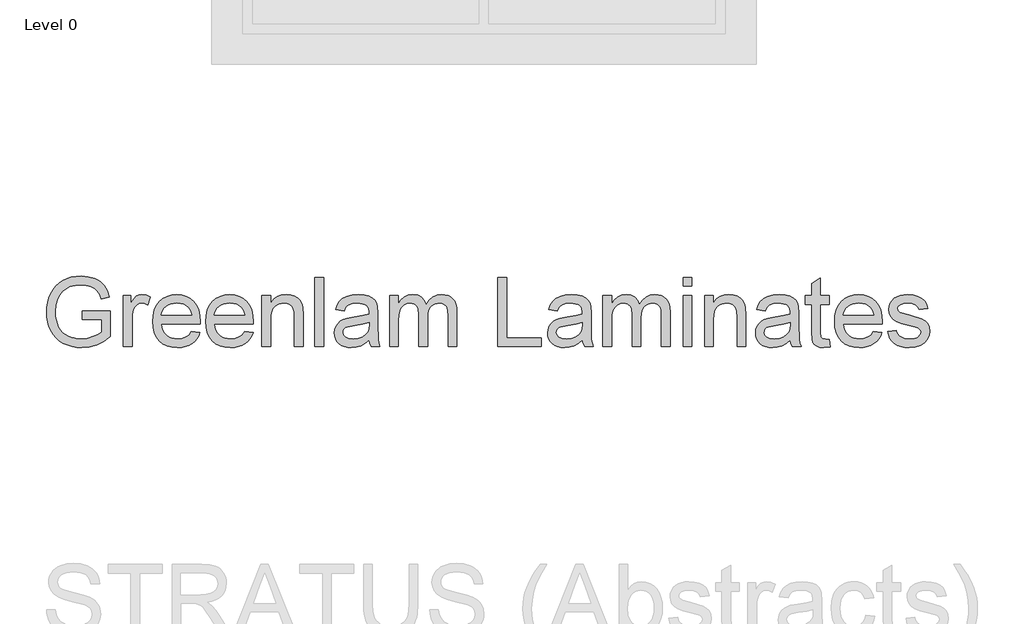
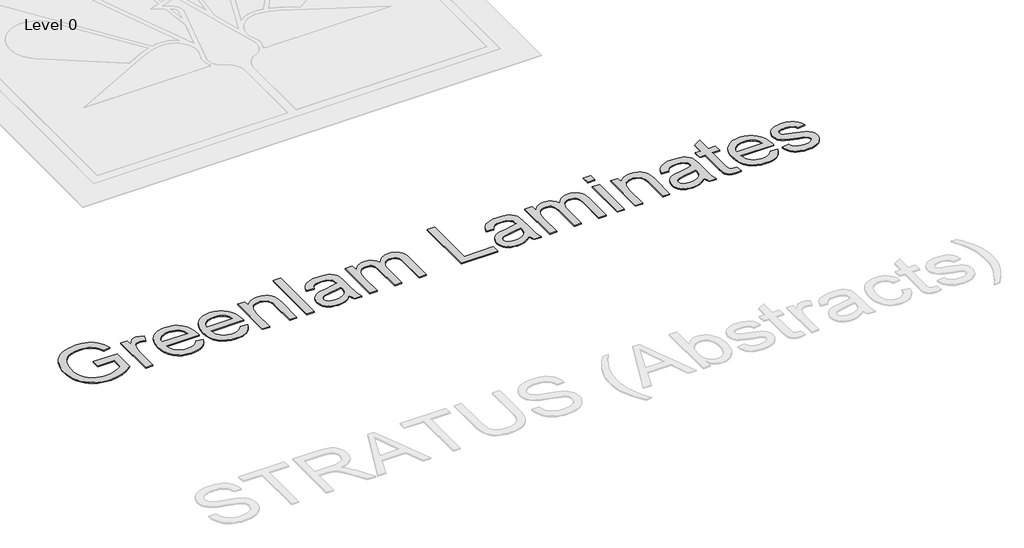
# One storey, part 9 of 9: 1 proxy.
"""IFC4 building model written with IfcOpenShell, lengths in millimetres."""

from ifc_helpers import new_model, si_unit, origin, origin_with_axes, place, context, project, spatial, polyline, outline, extrude, element, save

model = new_model("IFC4")

# Units and contexts
model_context = context("Model", 3, world=origin())
ifc_project = project(units=[si_unit("LENGTHUNIT", "METRE", prefix="MILLI")], contexts=[model_context])

# Site, building, storey
site = spatial("IfcSite", under=ifc_project)
building = spatial("IfcBuilding", under=site)
storey = spatial("IfcBuildingStorey", under=building, Name="Level 0", Elevation=0.0)

# Proxy
placement = place(None, origin())
element("IfcBuildingElementProxy", 1, Name="600mm Arial", ObjectType="600mm Arial", at=placement, inside=storey, context=model_context, shape_type="SweptSolid", body=[
    extrude(outline(polyline([(-10594.9298129, 2995.5724296), (-10594.9298129, 3070.9146622), (-10350.067557, 3070.9146622), (-10350.067557, 2845.6237284), (-10409.5724697, 2804.2370039), (-10470.9535806, 2774.5489269), (-10534.0637368, 2756.6698619), (-10598.7557857, 2750.7101736), (-10642.0325039, 2753.0784139), (-10683.2766741, 2760.183135), (-10722.4882962, 2772.0243367), (-10759.6673704, 2788.6020191), (-10793.6136815, 2809.6678618), (-10823.1270146, 2834.9735446), (-10848.2073696, 2864.5190673), (-10868.8547466, 2898.3044301), (-10884.9817735, 2935.2489794), (-10896.5010785, 2974.2720621), (-10903.4126615, 3015.373678), (-10905.7165225, 3058.5538272), (-10903.4218585, 3101.7385749), (-10896.5378667, 3143.4425975), (-10885.064547, 3183.6658952), (-10869.0018994, 3222.4084678), (-10848.6350324, 3257.9688612), (-10824.2490546, 3288.645621), (-10795.8439661, 3314.4387474), (-10763.4197667, 3335.3482403), (-10727.6800309, 3351.507457), (-10689.3283329, 3363.0497546), (-10648.3646727, 3369.9751331), (-10604.7890504, 3372.2835926), (-10542.7273578, 3366.9309096), (-10486.9196592, 3350.8728605), (-10462.0002525, 3339.1190308), (-10439.9227343, 3325.2682737), (-10420.6871045, 3309.3205892), (-10404.293363, 3291.2759773), (-10377.9346181, 3247.2588966), (-10358.749572, 3191.5799566), (-10428.2056927, 3172.0086345), (-10443.7119188, 3211.7214959), (-10462.5658711, 3241.6854844), (-10487.5082704, 3264.2734389), (-10521.2798375, 3281.8581982), (-10561.5445219, 3293.1705696), (-10605.9662728, 3296.94136), (-10657.9663928, 3292.876264), (-10702.4249319, 3280.6809758), (-10739.1763433, 3261.8822059), (-10768.0550799, 3238.0066644), (-10790.2199701, 3210.2867561), (-10806.8298422, 3179.9548856), (-10824.4881779, 3123.0803291), (-10830.3742899, 3061.6440359), (-10828.6038578, 3024.0235034), (-10823.2925615, 2989.5943472), (-10814.4404009, 2958.3565672), (-10802.0473762, 2930.3101636), (-10786.2744357, 2905.5609024), (-10767.2825277, 2884.2145496), (-10745.0716522, 2866.2711053), (-10719.6418093, 2851.7305695), (-10692.1840169, 2840.496373), (-10663.8892929, 2832.471947), (-10634.7576374, 2827.6572914), (-10604.7890504, 2826.0524062), (-10552.6049894, 2830.8900544), (-10501.7085154, 2845.4029992), (-10457.5074936, 2865.3973856), (-10425.4097896, 2886.679359), (-10425.4097896, 2995.5724296), (-10594.9298129, 2995.5724296)])), origin_with_axes(), (0.0, 0.0, 1.0), 10.0),
    extrude(outline(polyline([(-10237.054208, 2760.1279527), (-10237.054208, 3202.7635693), (-10171.1297545, 3202.7635693), (-10171.1297545, 3137.2805741), (-10146.7759664, 3175.245996), (-10124.3351647, 3197.6132213), (-10101.8207866, 3208.5393166), (-10077.2462693, 3212.1813483), (-10039.7223058, 3206.3688128), (-10001.6097311, 3188.9312062), (-10026.7728596, 3121.3880719), (-10053.2603632, 3132.9763548), (-10079.7478669, 3136.8391157), (-10102.2438509, 3133.1235076), (-10122.3486019, 3121.9766831), (-10138.590592, 3104.244771), (-10149.4982932, 3080.7738997), (-10158.6585549, 3038.6881994), (-10161.7119754, 2992.7765264), (-10161.7119754, 2760.1279527), (-10237.054208, 2760.1279527)])), origin_with_axes(), (0.0, 0.0, 1.0), 10.0),
    extrude(outline(polyline([(-9644.617043, 2891.9768597), (-9570.7463384, 2882.5590807), (-9582.0725053, 2852.9721712), (-9597.3626007, 2826.8985348), (-9616.6166246, 2804.3381714), (-9639.8345771, 2785.2910811), (-9666.7773347, 2770.1619341), (-9697.2057742, 2759.3554005), (-9731.1198956, 2752.8714803), (-9768.519699, 2750.7101736), (-9815.2683035, 2754.4395773), (-9856.9217424, 2765.6277885), (-9893.4800157, 2784.2748071), (-9924.9431233, 2810.3806332), (-9950.2442075, 2843.2186998), (-9968.3164106, 2882.06244), (-9979.1597324, 2926.9118537), (-9982.774173, 2977.766941), (-9979.1229442, 3030.3464752), (-9968.1692578, 3076.6904095), (-9949.9131138, 3116.798744), (-9924.3545121, 3150.6714788), (-9892.9741779, 3177.5820467), (-9857.2528362, 3196.8038809), (-9817.1904869, 3208.3369815), (-9772.7871301, 3212.1813483), (-9729.8139146, 3208.3461785), (-9690.9517803, 3196.8406691), (-9656.2007273, 3177.6648201), (-9625.5607557, 3150.8186315), (-9600.5493785, 3117.0194732), (-9582.6841091, 3076.9847151), (-9571.9649475, 3030.7143572), (-9568.3918936, 2978.2083994), (-9568.833352, 2957.9013133), (-9907.4319404, 2957.9013133), (-9903.0679402, 2927.8361572), (-9894.3905236, 2901.5050034), (-9881.3996907, 2878.9078519), (-9864.0954413, 2860.0447026), (-9843.4342688, 2845.1730729), (-9820.3726662, 2834.5504803), (-9794.9106336, 2828.1769247), (-9767.048171, 2826.0524062), (-9726.9490335, 2829.9887436), (-9693.1774664, 2841.7977556), (-9665.7334695, 2862.2152063), (-9644.617043, 2891.9768597)]), holes=[polyline([(-9907.4319404, 3033.2435459), (-9643.7341262, 3033.2435459), (-9653.9244575, 3073.0483778), (-9662.689246, 3088.7017567), (-9673.9004498, 3101.5224442), (-9694.4466593, 3116.973488), (-9717.82556, 3128.0099478), (-9744.0371522, 3134.6318238), (-9773.0814357, 3136.8391157), (-9799.5735379, 3135.0778807), (-9823.8675452, 3129.7941755), (-9845.9634575, 3120.9880003), (-9865.8612749, 3108.6593549), (-9882.558519, 3093.3784565), (-9895.0527112, 3075.7155222), (-9903.3438517, 3055.670552), (-9907.4319404, 3033.2435459)])]), origin_with_axes(), (0.0, 0.0, 1.0), 10.0),
    extrude(outline(polyline([(-9183.1458683, 2891.9768597), (-9109.2751636, 2882.5590807), (-9120.6013305, 2852.9721712), (-9135.891426, 2826.8985348), (-9155.1454499, 2804.3381714), (-9178.3634023, 2785.2910811), (-9205.3061599, 2770.1619341), (-9235.7345995, 2759.3554005), (-9269.6487209, 2752.8714803), (-9307.0485242, 2750.7101736), (-9353.7971288, 2754.4395773), (-9395.4505677, 2765.6277885), (-9432.0088409, 2784.2748071), (-9463.4719486, 2810.3806332), (-9488.7730328, 2843.2186998), (-9506.8452358, 2882.06244), (-9517.6885576, 2926.9118537), (-9521.3029982, 2977.766941), (-9517.6517694, 3030.3464752), (-9506.698083, 3076.6904095), (-9488.441939, 3116.798744), (-9462.8833374, 3150.6714788), (-9431.5030032, 3177.5820467), (-9395.7816615, 3196.8038809), (-9355.7193122, 3208.3369815), (-9311.3159554, 3212.1813483), (-9268.3427398, 3208.3461785), (-9229.4806055, 3196.8406691), (-9194.7295526, 3177.6648201), (-9164.0895809, 3150.8186315), (-9139.0782038, 3117.0194732), (-9121.2129344, 3076.9847151), (-9110.4937727, 3030.7143572), (-9106.9207189, 2978.2083994), (-9107.3621772, 2957.9013133), (-9445.9607656, 2957.9013133), (-9441.5967654, 2927.8361572), (-9432.9193489, 2901.5050034), (-9419.9285159, 2878.9078519), (-9402.6242666, 2860.0447026), (-9381.963094, 2845.1730729), (-9358.9014915, 2834.5504803), (-9333.4394589, 2828.1769247), (-9305.5769962, 2826.0524062), (-9265.4778588, 2829.9887436), (-9231.7062916, 2841.7977556), (-9204.2622948, 2862.2152063), (-9183.1458683, 2891.9768597)]), holes=[polyline([(-9445.9607656, 3033.2435459), (-9182.2629515, 3033.2435459), (-9192.4532827, 3073.0483778), (-9201.2180713, 3088.7017567), (-9212.4292751, 3101.5224442), (-9232.9754845, 3116.973488), (-9256.3543853, 3128.0099478), (-9282.5659775, 3134.6318238), (-9311.610261, 3136.8391157), (-9338.1023631, 3135.0778807), (-9362.3963704, 3129.7941755), (-9384.4922827, 3120.9880003), (-9404.3901002, 3108.6593549), (-9421.0873442, 3093.3784565), (-9433.5815365, 3075.7155222), (-9441.8726769, 3055.670552), (-9445.9607656, 3033.2435459)])]), origin_with_axes(), (0.0, 0.0, 1.0), 10.0),
    extrude(outline(polyline([(-9031.5784862, 2760.1279527), (-9031.5784862, 3202.7635693), (-8956.2362536, 3202.7635693), (-8956.2362536, 3140.9593941), (-8930.0614497, 3172.1189991), (-8898.6259332, 3194.3758598), (-8861.9297042, 3207.7299762), (-8819.9727626, 3212.1813483), (-8782.8350752, 3208.5944989), (-8748.8243847, 3197.8339505), (-8720.4606829, 3181.2424725), (-8700.2639614, 3160.1628342), (-8686.5603571, 3134.6502179), (-8677.6760069, 3104.7598058), (-8673.7028813, 3031.9191707), (-8673.7028813, 2760.1279527), (-8749.0451139, 2760.1279527), (-8749.0451139, 3021.7656276), (-8751.2156177, 3060.7243309), (-8757.727129, 3088.4258452), (-8769.7384762, 3108.2730788), (-8788.4084874, 3123.6689403), (-8812.3392112, 3133.5465719), (-8840.132696, 3136.8391157), (-8863.0103575, 3134.9905087), (-8884.2601413, 3129.4446876), (-8903.8820472, 3120.2016525), (-8921.8760753, 3107.2614033), (-8936.9086533, 3089.1524121), (-8947.646209, 3064.4031509), (-8954.0887425, 3033.0136196), (-8956.2362536, 2994.9838184), (-8956.2362536, 2760.1279527), (-9031.5784862, 2760.1279527)])), origin_with_axes(), (0.0, 0.0, 1.0), 10.0),
    extrude(outline(polyline([(-8570.1073115, 2760.1279527), (-8570.1073115, 3362.8658136), (-8494.7650789, 3362.8658136), (-8494.7650789, 2760.1279527), (-8570.1073115, 2760.1279527)])), origin_with_axes(), (0.0, 0.0, 1.0), 10.0),
    extrude(outline(polyline([(-8099.2183577, 2816.6346271), (-8135.2156109, 2785.7693277), (-8172.2797219, 2765.5726062), (-8211.2568193, 2754.4257817), (-8252.9930316, 2750.7101736), (-8286.5392711, 2752.9450567), (-8315.9560351, 2759.6497061), (-8341.2433238, 2770.8241217), (-8362.401137, 2786.4683035), (-8379.1075781, 2805.5889702), (-8391.0407503, 2827.1928404), (-8398.2006537, 2851.279914), (-8400.5872881, 2877.8501911), (-8396.9820446, 2909.0833725), (-8386.1663139, 2937.4470743), (-8369.4828654, 2961.727286), (-8348.2744684, 2980.709997), (-8323.3504632, 2995.0573948), (-8295.5201903, 3005.4316671), (-8230.3315007, 3016.7624325), (-8153.297011, 3028.6818092), (-8099.6598161, 3042.661325), (-8099.2183577, 3059.4367439), (-8104.4054938, 3093.0611583), (-8110.889414, 3105.5139638), (-8119.9669022, 3115.0605016), (-8135.6570693, 3124.5886453), (-8154.7685389, 3131.3944622), (-8203.2553859, 3136.8391157), (-8248.1369893, 3133.2154781), (-8279.4805353, 3122.3445651), (-8300.8544792, 3102.2398141), (-8315.8272764, 3070.9146622), (-8391.169509, 3080.3324413), (-8378.0913041, 3121.5352247), (-8358.5751643, 3153.9088403), (-8330.8000736, 3178.6672986), (-8292.9450163, 3197.0246101), (-8246.6470672, 3208.3921638), (-8193.5433012, 3212.1813483), (-8142.610039, 3208.8336222), (-8102.23499, 3198.7904437), (-8071.7927549, 3183.6888878), (-8050.6579343, 3165.1660294), (-8036.6416303, 3142.2653752), (-8027.554945, 3114.030432), (-8023.8761251, 3048.1059785), (-8023.8761251, 2954.3696461), (-8020.0501523, 2823.4772322), (-8014.3847696, 2791.1220108), (-8005.0405669, 2760.1279527), (-8080.3827995, 2760.1279527), (-8092.449329, 2786.3211507), (-8099.2183577, 2816.6346271)]), holes=[polyline([(-8099.2183577, 2967.3190924), (-8149.8389202, 2954.7743163), (-8220.7665689, 2944.2161031), (-8285.5873764, 2932.0024208), (-8302.4547659, 2923.6514995), (-8314.9443596, 2912.1367931), (-8322.6698815, 2898.3412183), (-8325.2450555, 2883.1476919), (-8319.6348551, 2860.7436784), (-8302.8042538, 2842.3863668), (-8275.1211337, 2830.1358964), (-8236.9533767, 2826.0524062), (-8196.4863572, 2830.5589606), (-8160.7282273, 2844.078624), (-8131.739126, 2863.999434), (-8111.5791927, 2887.7094286), (-8102.6396602, 2912.1367931), (-8099.6598161, 2945.9819366), (-8099.2183577, 2967.3190924)])]), origin_with_axes(), (0.0, 0.0, 1.0), 10.0),
    extrude(outline(polyline([(-7920.2805552, 2760.1279527), (-7920.2805552, 3202.7635693), (-7844.9383226, 3202.7635693), (-7844.9383226, 3129.9229342), (-7822.2767917, 3163.3818017), (-7793.1405377, 3189.5933938), (-7758.5228419, 3206.5343597), (-7719.4169858, 3212.1813483), (-7677.5152266, 3206.4239951), (-7659.6821469, 3199.2273036), (-7643.9276004, 3189.1519354), (-7618.8380484, 3161.5056035), (-7602.4305114, 3124.6254335), (-7574.9681204, 3162.9311462), (-7543.6429685, 3190.2923696), (-7508.4550557, 3206.7091037), (-7469.4043819, 3212.1813483), (-7439.2426568, 3209.9050785), (-7412.7689488, 3203.076269), (-7389.9832577, 3191.6949197), (-7370.8855836, 3175.7610308), (-7355.7886262, 3155.0906612), (-7345.0050853, 3129.4998699), (-7338.5349607, 3098.988657), (-7336.3782525, 3063.5570223), (-7336.3782525, 2760.1279527), (-7411.7204851, 2760.1279527), (-7411.7204851, 3031.1834067), (-7413.4679246, 3068.7625525), (-7418.710243, 3094.0912279), (-7428.5326923, 3111.436864), (-7444.0205243, 3125.0668919), (-7463.9413343, 3133.8960598), (-7487.0627177, 3136.8391157), (-7508.413669, 3134.9537205), (-7527.8792251, 3129.2975348), (-7545.4593859, 3119.8705587), (-7561.1541515, 3106.6727921), (-7574.062211, 3089.317959), (-7583.2822535, 3067.4197832), (-7588.814279, 3040.9782648), (-7590.6582875, 3009.9934038), (-7590.6582875, 2760.1279527), (-7666.0005201, 2760.1279527), (-7666.0005201, 3039.5711162), (-7670.3599218, 3082.1718512), (-7675.8091738, 3098.8920879), (-7683.4381267, 3112.5589041), (-7693.5502831, 3123.1814967), (-7706.4491455, 3130.7690628), (-7722.1347141, 3135.3216025), (-7740.6069888, 3136.8391157), (-7769.6328782, 3132.7924138), (-7796.3778992, 3120.6523079), (-7818.4508189, 3100.7131038), (-7833.4604044, 3073.269107), (-7842.068843, 3035.1933205), (-7844.9383226, 2983.3587473), (-7844.9383226, 2760.1279527), (-7920.2805552, 2760.1279527)])), origin_with_axes(), (0.0, 0.0, 1.0), 10.0),
    extrude(outline(polyline([(-6978.5026476, 2760.1279527), (-6978.5026476, 3362.8658136), (-6903.1604149, 3362.8658136), (-6903.1604149, 2835.4701853), (-6601.7914845, 2835.4701853), (-6601.7914845, 2760.1279527), (-6978.5026476, 2760.1279527)])), origin_with_axes(), (0.0, 0.0, 1.0), 10.0),
    extrude(outline(polyline([(-6243.9158796, 2816.6346271), (-6279.9131328, 2785.7693277), (-6316.9772438, 2765.5726062), (-6355.9543412, 2754.4257817), (-6397.6905536, 2750.7101736), (-6431.236793, 2752.9450567), (-6460.653557, 2759.6497061), (-6485.9408457, 2770.8241217), (-6507.0986589, 2786.4683035), (-6523.8051, 2805.5889702), (-6535.7382723, 2827.1928404), (-6542.8981756, 2851.279914), (-6545.28481, 2877.8501911), (-6541.6795665, 2909.0833725), (-6530.8638358, 2937.4470743), (-6514.1803873, 2961.727286), (-6492.9719903, 2980.709997), (-6468.0479852, 2995.0573948), (-6440.2177122, 3005.4316671), (-6375.0290227, 3016.7624325), (-6297.9945329, 3028.6818092), (-6244.357338, 3042.661325), (-6243.9158796, 3059.4367439), (-6249.1030157, 3093.0611583), (-6255.5869359, 3105.5139638), (-6264.6644241, 3115.0605016), (-6280.3545912, 3124.5886453), (-6299.4660609, 3131.3944622), (-6347.9529078, 3136.8391157), (-6392.8345112, 3133.2154781), (-6424.1780572, 3122.3445651), (-6445.5520011, 3102.2398141), (-6460.5247984, 3070.9146622), (-6535.867031, 3080.3324413), (-6522.788826, 3121.5352247), (-6503.2726862, 3153.9088403), (-6475.4975956, 3178.6672986), (-6437.6425383, 3197.0246101), (-6391.3445892, 3208.3921638), (-6338.2408232, 3212.1813483), (-6287.3075609, 3208.8336222), (-6246.932512, 3198.7904437), (-6216.4902768, 3183.6888878), (-6195.3554562, 3165.1660294), (-6181.3391522, 3142.2653752), (-6172.2524669, 3114.030432), (-6168.573647, 3048.1059785), (-6168.573647, 2954.3696461), (-6164.7476742, 2823.4772322), (-6159.0822915, 2791.1220108), (-6149.7380888, 2760.1279527), (-6225.0803214, 2760.1279527), (-6237.1468509, 2786.3211507), (-6243.9158796, 2816.6346271)]), holes=[polyline([(-6243.9158796, 2967.3190924), (-6294.5364421, 2954.7743163), (-6365.4640908, 2944.2161031), (-6430.2848983, 2932.0024208), (-6447.1522878, 2923.6514995), (-6459.6418816, 2912.1367931), (-6467.3674035, 2898.3412183), (-6469.9425774, 2883.1476919), (-6464.332377, 2860.7436784), (-6447.5017757, 2842.3863668), (-6419.8186556, 2830.1358964), (-6381.6508986, 2826.0524062), (-6341.1838791, 2830.5589606), (-6305.4257492, 2844.078624), (-6276.436648, 2863.999434), (-6256.2767146, 2887.7094286), (-6247.3371821, 2912.1367931), (-6244.357338, 2945.9819366), (-6243.9158796, 2967.3190924)])]), origin_with_axes(), (0.0, 0.0, 1.0), 10.0),
    extrude(outline(polyline([(-6064.9780771, 2760.1279527), (-6064.9780771, 3202.7635693), (-5989.6358445, 3202.7635693), (-5989.6358445, 3129.9229342), (-5966.9743136, 3163.3818017), (-5937.8380596, 3189.5933938), (-5903.2203639, 3206.5343597), (-5864.1145078, 3212.1813483), (-5822.2127485, 3206.4239951), (-5804.3796688, 3199.2273036), (-5788.6251224, 3189.1519354), (-5763.5355703, 3161.5056035), (-5747.1280333, 3124.6254335), (-5719.6656424, 3162.9311462), (-5688.3404905, 3190.2923696), (-5653.1525776, 3206.7091037), (-5614.1019038, 3212.1813483), (-5583.9401788, 3209.9050785), (-5557.4664707, 3203.076269), (-5534.6807796, 3191.6949197), (-5515.5831055, 3175.7610308), (-5500.4861482, 3155.0906612), (-5489.7026072, 3129.4998699), (-5483.2324826, 3098.988657), (-5481.0757744, 3063.5570223), (-5481.0757744, 2760.1279527), (-5556.418007, 2760.1279527), (-5556.418007, 3031.1834067), (-5558.1654465, 3068.7625525), (-5563.4077649, 3094.0912279), (-5573.2302142, 3111.436864), (-5588.7180462, 3125.0668919), (-5608.6388562, 3133.8960598), (-5631.7602396, 3136.8391157), (-5653.1111909, 3134.9537205), (-5672.576747, 3129.2975348), (-5690.1569078, 3119.8705587), (-5705.8516734, 3106.6727921), (-5718.759733, 3089.317959), (-5727.9797755, 3067.4197832), (-5733.511801, 3040.9782648), (-5735.3558095, 3009.9934038), (-5735.3558095, 2760.1279527), (-5810.6980421, 2760.1279527), (-5810.6980421, 3039.5711162), (-5815.0574437, 3082.1718512), (-5820.5066958, 3098.8920879), (-5828.1356486, 3112.5589041), (-5838.247805, 3123.1814967), (-5851.1466674, 3130.7690628), (-5866.832236, 3135.3216025), (-5885.3045107, 3136.8391157), (-5914.3304001, 3132.7924138), (-5941.0754212, 3120.6523079), (-5963.1483409, 3100.7131038), (-5978.1579263, 3073.269107), (-5986.766365, 3035.1933205), (-5989.6358445, 2983.3587473), (-5989.6358445, 2760.1279527), (-6064.9780771, 2760.1279527)])), origin_with_axes(), (0.0, 0.0, 1.0), 10.0),
    extrude(outline(polyline([(-5368.0624255, 3287.523581), (-5368.0624255, 3362.8658136), (-5292.7201929, 3362.8658136), (-5292.7201929, 3287.523581), (-5368.0624255, 3287.523581)])), origin_with_axes(), (0.0, 0.0, 1.0), 10.0),
    extrude(outline(polyline([(-5368.0624255, 2760.1279527), (-5368.0624255, 3202.7635693), (-5292.7201929, 3202.7635693), (-5292.7201929, 2760.1279527), (-5368.0624255, 2760.1279527)])), origin_with_axes(), (0.0, 0.0, 1.0), 10.0),
    extrude(outline(polyline([(-5179.7068439, 2760.1279527), (-5179.7068439, 3202.7635693), (-5104.3646113, 3202.7635693), (-5104.3646113, 3140.9593941), (-5078.1898074, 3172.1189991), (-5046.7542909, 3194.3758598), (-5010.0580619, 3207.7299762), (-4968.1011203, 3212.1813483), (-4930.9634329, 3208.5944989), (-4896.9527424, 3197.8339505), (-4868.5890406, 3181.2424725), (-4848.3923191, 3160.1628342), (-4834.6887148, 3134.6502179), (-4825.8043646, 3104.7598058), (-4821.831239, 3031.9191707), (-4821.831239, 2760.1279527), (-4897.1734716, 2760.1279527), (-4897.1734716, 3021.7656276), (-4899.3439754, 3060.7243309), (-4905.8554867, 3088.4258452), (-4917.8668339, 3108.2730788), (-4936.5368451, 3123.6689403), (-4960.4675689, 3133.5465719), (-4988.2610537, 3136.8391157), (-5011.1387152, 3134.9905087), (-5032.388499, 3129.4446876), (-5052.0104049, 3120.2016525), (-5070.004433, 3107.2614033), (-5085.037011, 3089.1524121), (-5095.7745667, 3064.4031509), (-5102.2171002, 3033.0136196), (-5104.3646113, 2994.9838184), (-5104.3646113, 2760.1279527), (-5179.7068439, 2760.1279527)])), origin_with_axes(), (0.0, 0.0, 1.0), 10.0),
    extrude(outline(polyline([(-4435.7022969, 2816.6346271), (-4471.6995501, 2785.7693277), (-4508.7636611, 2765.5726062), (-4547.7407585, 2754.4257817), (-4589.4769709, 2750.7101736), (-4623.0232103, 2752.9450567), (-4652.4399744, 2759.6497061), (-4677.727263, 2770.8241217), (-4698.8850762, 2786.4683035), (-4715.5915174, 2805.5889702), (-4727.5246896, 2827.1928404), (-4734.6845929, 2851.279914), (-4737.0712273, 2877.8501911), (-4733.4659838, 2909.0833725), (-4722.6502531, 2937.4470743), (-4705.9668047, 2961.727286), (-4684.7584076, 2980.709997), (-4659.8344025, 2995.0573948), (-4632.0041295, 3005.4316671), (-4566.81544, 3016.7624325), (-4489.7809502, 3028.6818092), (-4436.1437553, 3042.661325), (-4435.7022969, 3059.4367439), (-4440.889433, 3093.0611583), (-4447.3733532, 3105.5139638), (-4456.4508414, 3115.0605016), (-4472.1410085, 3124.5886453), (-4491.2524782, 3131.3944622), (-4539.7393251, 3136.8391157), (-4584.6209285, 3133.2154781), (-4615.9644745, 3122.3445651), (-4637.3384185, 3102.2398141), (-4652.3112157, 3070.9146622), (-4727.6534483, 3080.3324413), (-4714.5752433, 3121.5352247), (-4695.0591035, 3153.9088403), (-4667.2840129, 3178.6672986), (-4629.4289556, 3197.0246101), (-4583.1310065, 3208.3921638), (-4530.0272405, 3212.1813483), (-4479.0939782, 3208.8336222), (-4438.7189293, 3198.7904437), (-4408.2766942, 3183.6888878), (-4387.1418735, 3165.1660294), (-4373.1255695, 3142.2653752), (-4364.0388842, 3114.030432), (-4360.3600643, 3048.1059785), (-4360.3600643, 2954.3696461), (-4356.5340915, 2823.4772322), (-4350.8687088, 2791.1220108), (-4341.5245061, 2760.1279527), (-4416.8667387, 2760.1279527), (-4428.9332682, 2786.3211507), (-4435.7022969, 2816.6346271)]), holes=[polyline([(-4435.7022969, 2967.3190924), (-4486.3228594, 2954.7743163), (-4557.2505081, 2944.2161031), (-4622.0713157, 2932.0024208), (-4638.9387051, 2923.6514995), (-4651.4282989, 2912.1367931), (-4659.1538208, 2898.3412183), (-4661.7289947, 2883.1476919), (-4656.1187943, 2860.7436784), (-4639.288193, 2842.3863668), (-4611.6050729, 2830.1358964), (-4573.4373159, 2826.0524062), (-4532.9702964, 2830.5589606), (-4497.2121665, 2844.078624), (-4468.2230653, 2863.999434), (-4448.0631319, 2887.7094286), (-4439.1235995, 2912.1367931), (-4436.1437553, 2945.9819366), (-4435.7022969, 2967.3190924)])]), origin_with_axes(), (0.0, 0.0, 1.0), 10.0),
    extrude(outline(polyline([(-4096.6622501, 2822.9621974), (-4087.2444711, 2757.9206607), (-4143.6039927, 2750.7101736), (-4179.7667929, 2753.8371706), (-4206.7325431, 2763.2181614), (-4225.7888304, 2777.6759238), (-4238.2232419, 2796.0332354), (-4245.065847, 2827.5607224), (-4247.3467154, 2881.5290111), (-4247.3467154, 3127.4213367), (-4303.8533898, 3127.4213367), (-4303.8533898, 3202.7635693), (-4247.3467154, 3202.7635693), (-4247.3467154, 3310.3322647), (-4172.0044828, 3354.6252569), (-4172.0044828, 3202.7635693), (-4096.6622501, 3202.7635693), (-4096.6622501, 3127.4213367), (-4172.0044828, 3127.4213367), (-4172.0044828, 2883.7363031), (-4168.0313572, 2844.8879644), (-4155.1554874, 2831.1291777), (-4144.2845744, 2827.3215991), (-4129.4773241, 2826.0524062), (-4096.6622501, 2822.9621974)])), origin_with_axes(), (0.0, 0.0, 1.0), 10.0),
    extrude(outline(polyline([(-3711.4162248, 2891.9768597), (-3637.5455202, 2882.5590807), (-3648.8716871, 2852.9721712), (-3664.1617825, 2826.8985348), (-3683.4158064, 2804.3381714), (-3706.6337589, 2785.2910811), (-3733.5765165, 2770.1619341), (-3764.004956, 2759.3554005), (-3797.9190774, 2752.8714803), (-3835.3188808, 2750.7101736), (-3882.0674853, 2754.4395773), (-3923.7209242, 2765.6277885), (-3960.2791975, 2784.2748071), (-3991.7423051, 2810.3806332), (-4017.0433893, 2843.2186998), (-4035.1155923, 2882.06244), (-4045.9589142, 2926.9118537), (-4049.5733548, 2977.766941), (-4045.922126, 3030.3464752), (-4034.9684396, 3076.6904095), (-4016.7122955, 3116.798744), (-3991.1536939, 3150.6714788), (-3959.7733597, 3177.5820467), (-3924.052018, 3196.8038809), (-3883.9896687, 3208.3369815), (-3839.5863119, 3212.1813483), (-3796.6130964, 3208.3461785), (-3757.7509621, 3196.8406691), (-3722.9999091, 3177.6648201), (-3692.3599374, 3150.8186315), (-3667.3485603, 3117.0194732), (-3649.4832909, 3076.9847151), (-3638.7641293, 3030.7143572), (-3635.1910754, 2978.2083994), (-3635.6325338, 2957.9013133), (-3974.2311221, 2957.9013133), (-3969.867122, 2927.8361572), (-3961.1897054, 2901.5050034), (-3948.1988725, 2878.9078519), (-3930.8946231, 2860.0447026), (-3910.2334506, 2845.1730729), (-3887.171848, 2834.5504803), (-3861.7098154, 2828.1769247), (-3833.8473528, 2826.0524062), (-3793.7482153, 2829.9887436), (-3759.9766482, 2841.7977556), (-3732.5326513, 2862.2152063), (-3711.4162248, 2891.9768597)]), holes=[polyline([(-3974.2311221, 3033.2435459), (-3710.533308, 3033.2435459), (-3720.7236393, 3073.0483778), (-3729.4884278, 3088.7017567), (-3740.6996316, 3101.5224442), (-3761.245841, 3116.973488), (-3784.6247418, 3128.0099478), (-3810.836334, 3134.6318238), (-3839.8806175, 3136.8391157), (-3866.3727197, 3135.0778807), (-3890.6667269, 3129.7941755), (-3912.7626393, 3120.9880003), (-3932.6604567, 3108.6593549), (-3949.3577007, 3093.3784565), (-3961.851893, 3075.7155222), (-3970.1430335, 3055.670552), (-3974.2311221, 3033.2435459)])]), origin_with_axes(), (0.0, 0.0, 1.0), 10.0),
    extrude(outline(polyline([(-3588.10218, 2891.9768597), (-3512.7599474, 2901.3946388), (-3508.2074077, 2884.2145496), (-3500.877359, 2869.168176), (-3490.7698011, 2856.255518), (-3477.8847343, 2845.4765756), (-3462.1853701, 2836.9785015), (-3443.6349205, 2830.9084485), (-3397.9807649, 2826.0524062), (-3352.8784323, 2830.5037783), (-3335.3488552, 2836.0679935), (-3321.1670043, 2843.8578948), (-3302.4050226, 2863.2084877), (-3297.7145271, 2874.0426125), (-3296.1510286, 2885.6492894), (-3297.7237242, 2895.8212266), (-3302.4418108, 2904.8527296), (-3321.3141571, 2919.494433), (-3349.5307061, 2929.0593649), (-3398.8636817, 2940.9787415), (-3467.6208266, 2960.8627633), (-3512.318489, 2977.8405174), (-3541.0316787, 2996.3633759), (-3561.8354056, 3020.8827109), (-3574.4721521, 3049.8350239), (-3578.6844009, 3081.6568165), (-3575.2998866, 3110.8482528), (-3565.1463435, 3137.7956089), (-3549.1434767, 3161.4320271), (-3528.2109912, 3180.6906496), (-3507.4072644, 3192.8123613), (-3480.3127554, 3202.9842985), (-3448.9876035, 3209.8820859), (-3415.4919479, 3212.1813483), (-3366.4532779, 3208.4841343), (-3323.8157547, 3197.3924921), (-3289.5291527, 3179.9916738), (-3265.5432466, 3157.3669311), (-3249.6507444, 3127.844401), (-3239.6443542, 3089.7502203), (-3314.9865868, 3080.3324413), (-3324.4963364, 3104.0424359), (-3343.3135004, 3121.9031067), (-3371.6220199, 3133.1051135), (-3409.605836, 3136.8391157), (-3452.8687586, 3133.2706604), (-3481.710707, 3122.5652943), (-3497.934303, 3107.1142505), (-3503.3421683, 3089.308762), (-3501.0980882, 3077.7204791), (-3494.3658476, 3067.382995), (-3482.8511412, 3058.149157), (-3466.2596632, 3050.7547289), (-3401.3652793, 3034.7150739), (-3290.7799515, 2999.2512495), (-3261.5701211, 2982.2918896), (-3239.423625, 2959.0785357), (-3225.4625033, 2929.5376115), (-3220.808796, 2893.5955405), (-3226.2718437, 2856.439459), (-3242.6609865, 2821.4906695), (-3269.3508253, 2791.4898928), (-3305.7159605, 2769.1778498), (-3349.6410707, 2755.3270926), (-3399.0108345, 2750.7101736), (-3439.5606274, 2752.9358597), (-3474.9784665, 2759.6129179), (-3505.2643517, 2770.7413482), (-3530.4182832, 2786.3211507), (-3550.9644926, 2806.278749), (-3567.4272119, 2830.5405665), (-3579.806441, 2859.1066035), (-3588.10218, 2891.9768597)])), origin_with_axes(), (0.0, 0.0, 1.0), 10.0),
])

save(model, "model.ifc")
